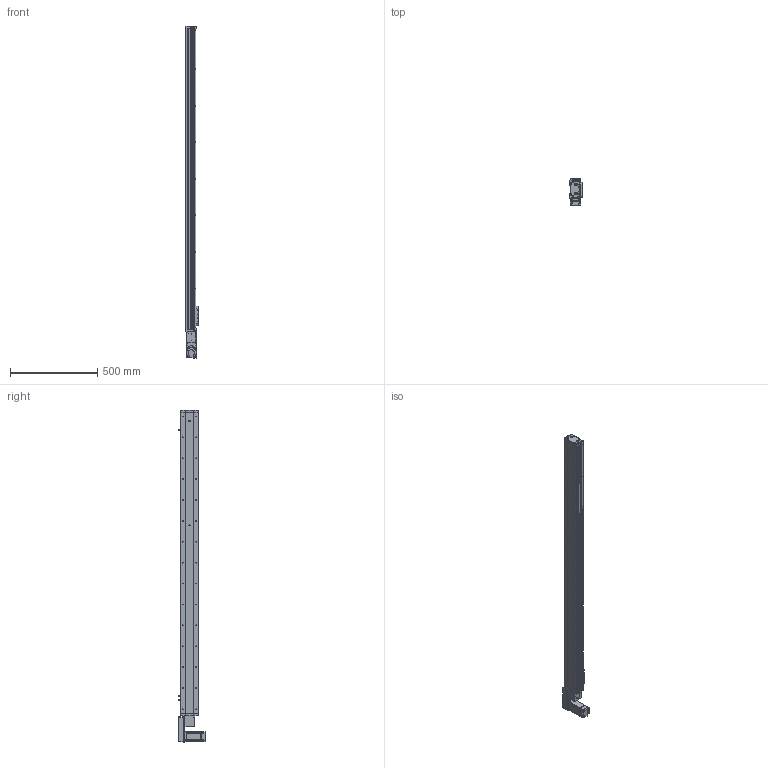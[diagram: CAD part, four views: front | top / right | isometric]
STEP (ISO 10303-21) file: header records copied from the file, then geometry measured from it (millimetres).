
FILE_DESCRIPTION (( 'STEP AP214' ), '1' );
FILE_NAME ('KSD100B-S1550-MLB-CR.STEP', '2019-11-13T01:19:10', ( '微软用户' ), ( '微软中国' ), 'SwSTEP 2.0', 'SolidWorks 2014', '' );
FILE_SCHEMA (( 'AUTOMOTIVE_DESIGN' ));
Length unit declared in the file: millimetre
Products named in the file (15): 100宽马达安装板连板上下折丝杆同步带; 感应片100宽全封闭; U倰嫖萇EEㄜSX672; 100宽马达安装板同步带左; 100遵鎮湛假蚾啣蜊; 100宽端板同步带全封闭; 100宽滚珠螺姆安装板1防护罩; MHMD042G1CA_2_03; 100宽滚珠螺姆安装板1; 100遵裔啣揤啣; 100遵裔啣1550俴最; 100宽侧板1550行程同步带; 100宽底板全封闭1550行程同步带; KSD100B-S1550-MLB-CR; 悵誘欶奻狟殏
Assembly tree (18 placements, depth 2):
  KSD100B-S1550-MLB-CR
    100宽底板全封闭1550行程同步带
    100宽侧板1550行程同步带  x2
    100遵裔啣1550俴最
    100遵裔啣揤啣  x2
    100宽滚珠螺姆安装板1
    100宽滚珠螺姆安装板1防护罩
    100宽端板同步带全封闭
    100遵鎮湛假蚾啣蜊
    100宽马达安装板同步带左
    U倰嫖萇EEㄜSX672  x3
    感应片100宽全封闭
    100宽马达安装板连板上下折丝杆同步带
    悵誘欶奻狟殏
    MHMD042G1CA_2_03
Bounding box: 70 x 156.2 x 1907 mm (x, y, z)
Volume: 3483371.1 mm3; surface area: 1522102.8 mm2
Topology: 17 solids, 18 shells, 1977 faces, 5534 edges, 3497 vertices
Faces by surface type: cylinder 905, plane 741, cone 311, bspline 20
Entity records: 70334 total; most frequent: CARTESIAN_POINT 10930, DIRECTION 9632, ORIENTED_EDGE 8840, EDGE_CURVE 4492, AXIS2_PLACEMENT_3D 3525, VERTEX_POINT 2975, LINE 2582, VECTOR 2582
